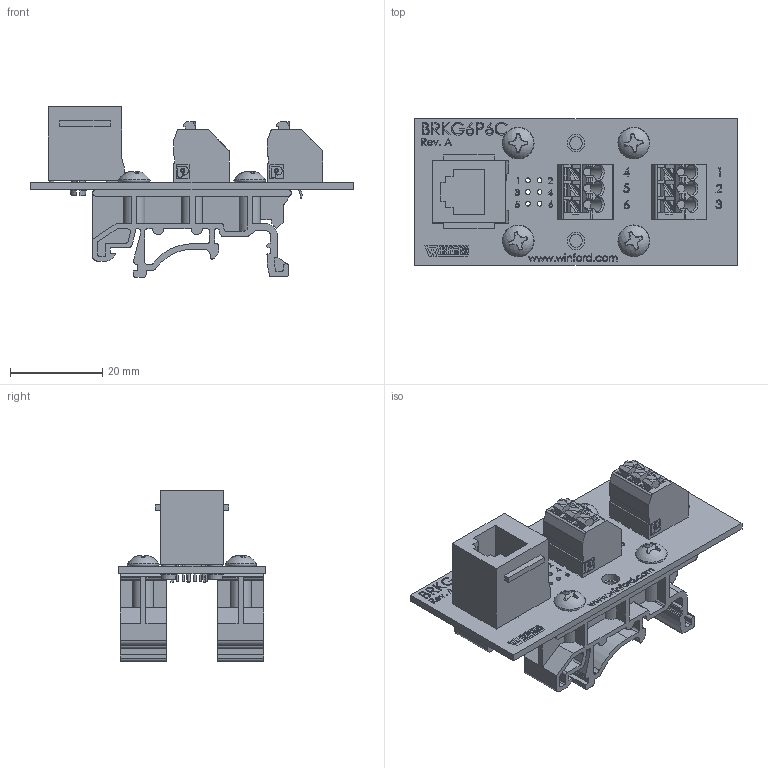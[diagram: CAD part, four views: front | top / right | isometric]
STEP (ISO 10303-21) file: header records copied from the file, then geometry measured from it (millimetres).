
FILE_DESCRIPTION (( 'STEP AP214' ), '1' );
FILE_NAME ('brkg6p6c-s-din_rev_a.STEP', '2017-11-06T04:00:18', ( '' ), ( '' ), 'SwSTEP 2.0', 'SolidWorks 2017', '' );
FILE_SCHEMA (( 'AUTOMOTIVE_DESIGN' ));
Length unit declared in the file: inch
Products named in the file (6): Modular Jack vertical 6; dinm01; brkg6p6c-s-din_rev_a; Spring Terminal 3 Position; Screw_SCSMPP-6-0.375_90184A127; BRKG6P6C Board
Assembly tree (10 placements, depth 2):
  brkg6p6c-s-din_rev_a
    BRKG6P6C Board
    dinm01  x2
    Modular Jack vertical 6
    Screw_SCSMPP-6-0.375_90184A127  x4
    Spring Terminal 3 Position  x2
Bounding box: 69.85 x 31.75 x 36.95 mm (x, y, z)
Volume: 13918.7 mm3; surface area: 18410.2 mm2
Topology: 10 solids, 10 shells, 2032 faces, 5531 edges, 3662 vertices
Faces by surface type: plane 1249, cylinder 425, bspline 270, cone 80, torus 4, sphere 4
Full cylindrical faces by diameter (mm): 0.457 x2, 0.5 x6, 0.76 x5, 0.991 x6, 1 x6, 1.016 x6, 1.04 x8, 1.14 x8, 1.38 x2, 1.4 x2, 1.47 x2, 2.75 x6, 3 x6, 3.1 x2, 3.81 x6
Entity records: 69181 total; most frequent: CARTESIAN_POINT 21909, ORIENTED_EDGE 7224, DIRECTION 5833, EDGE_CURVE 3612, LINE 2541, VECTOR 2541, VERTEX_POINT 2434, AXIS2_PLACEMENT_3D 1646
